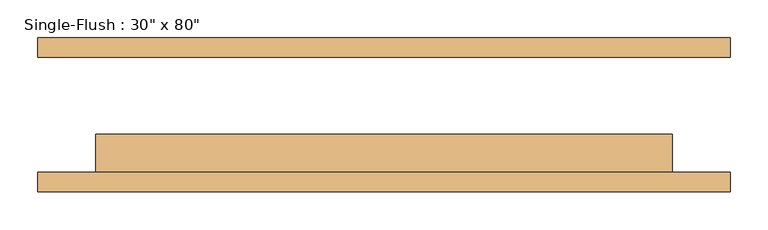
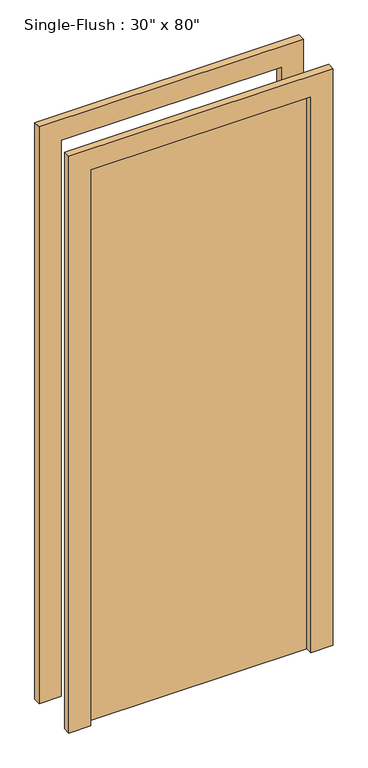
"""IFC4 building model written with IfcOpenShell, lengths in millimetres: door geometry."""

from ifc_helpers import new_model, si_unit, frame, origin, origin_with_axes, place, context, project, spatial, polyline, outline, extrude, source, transform, mapped, element, save


def door_255cab33(model_context):
    return source(origin(), model_context, "Body", "SweptSolid", [
        extrude(outline(polyline([(2108.2, -457.2), (0.0, -457.2), (0.0, -381.0), (2032.0, -381.0), (2032.0, 381.0), (0.0, 381.0), (0.0, 457.2), (2108.2, 457.2), (2108.2, -457.2)])), frame((0.0, -101.6, 0.0), z_axis=(0.0, 1.0, 0.0), x_axis=(0.0, 0.0, 1.0)), (0.0, 0.0, 1.0), 25.4),
        extrude(outline(polyline([(2108.2, 457.2), (2108.2, -457.2), (0.0, -457.2), (0.0, -381.0), (2032.0, -381.0), (2032.0, 381.0), (0.0, 381.0), (0.0, 457.2), (2108.2, 457.2)])), frame((0.0, 76.2, 0.0), z_axis=(0.0, 1.0, 0.0), x_axis=(0.0, 0.0, 1.0)), (0.0, 0.0, 1.0), 25.4),
        extrude(outline(polyline([(381.0, -25.4), (381.0, -76.2), (-381.0, -76.2), (-381.0, -25.4), (381.0, -25.4)])), origin_with_axes(), (0.0, 0.0, 1.0), 2032.0),
    ])


if __name__ == "__main__":
    model = new_model("IFC4")
    model_context = context("Model", 3, world=origin())
    ifc_project = project(units=[si_unit("LENGTHUNIT", "METRE", prefix="MILLI")], contexts=[model_context])
    site = spatial("IfcSite", under=ifc_project)
    building = spatial("IfcBuilding", under=site)
    placement = place(None, origin())
    door_shape = door_255cab33(model_context)
    element("IfcDoor", 1, ObjectType="Single-Flush : 30\" x 80\"", at=placement, inside=building, context=model_context, shape_type="MappedRepresentation", body=[
        mapped(door_shape, transform((0.0, 0.0, 0.0), x_axis=(1.0, 0.0, 0.0), y_axis=(0.0, 1.0, 0.0), z_axis=(0.0, 0.0, 1.0))),
    ])
    save(model, "model.ifc")
